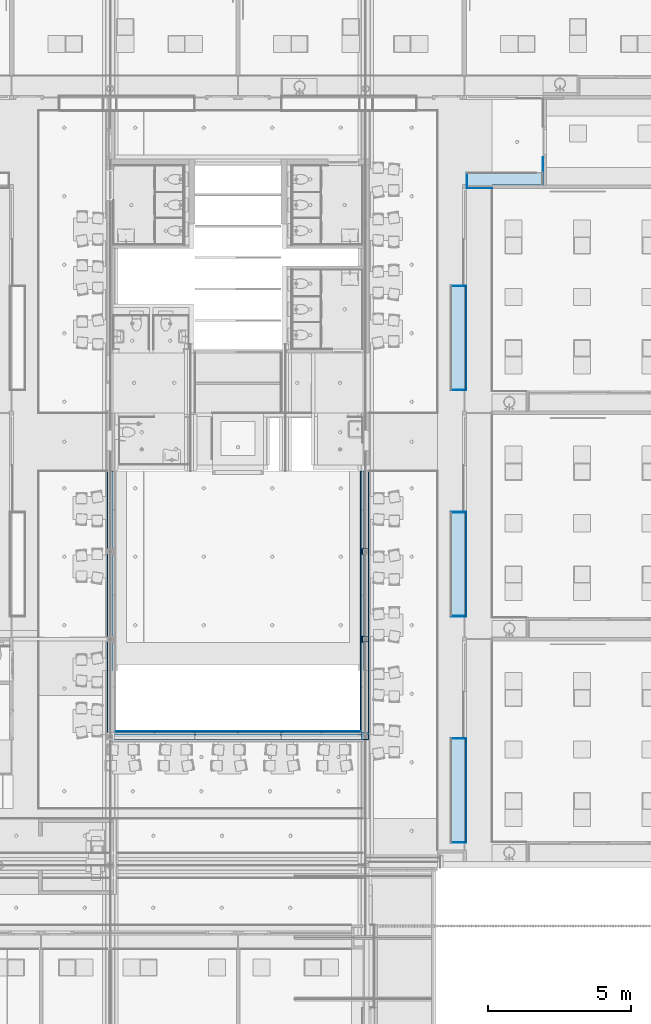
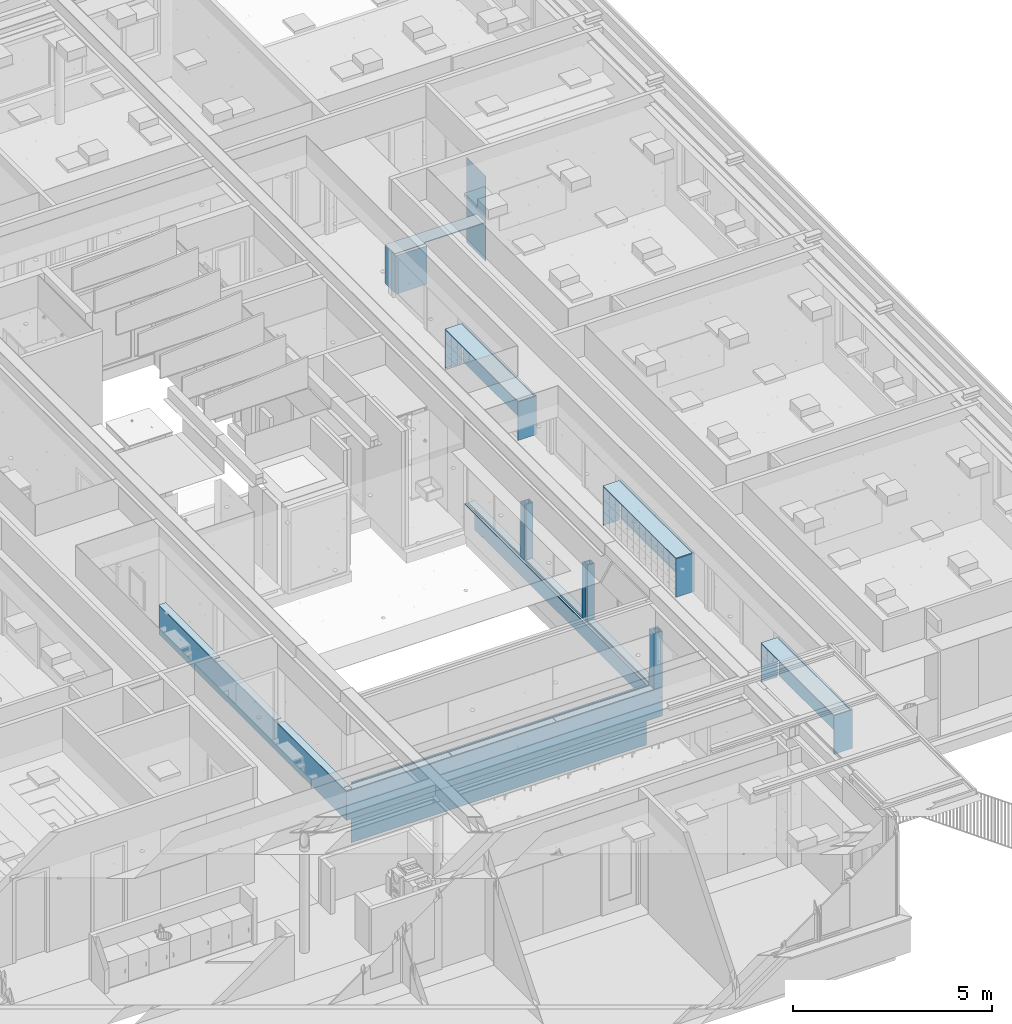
# One storey, part 21 of 260: 29 plates.
"""IFC2X3 building model written with IfcOpenShell, lengths in millimetres."""

import ifcopenshell
import ifcopenshell.guid

model = None  # the IFC model being written
_history = None  # IfcOwnerHistory: only IFC2X3 demands one
_inside = {}  # id of a spatial element -> (the spatial element, [elements in it])
_under = {}  # id of a project, library or spatial element -> (it, [spatial elements below it])
_declared = {}  # id of a project -> (the project, [libraries it declares])
_typed = {}  # id of a type object -> (the type object, [elements of that type])
_made_of = {}  # id of a material, layer set ... -> (it, [elements and type objects made of it])


def new_model(schema):
    """Start an empty IFC model of exactly this schema.

    Asked for "IFC4X3", IfcOpenShell would pick the latest addendum, in which some entities
    have other attributes; the version numbers below select the first issue.
    IFC2X3 requires an IfcOwnerHistory on every rooted entity: one is made here for all.
    """
    global model, _history
    if schema == "IFC4X3":
        model = ifcopenshell.file(schema_version=(4, 3, 0, 0))
    else:
        model = ifcopenshell.file(schema=schema)
    _inside.clear()
    _under.clear()
    _declared.clear()
    _typed.clear()
    _made_of.clear()
    _history = None
    if model.schema == "IFC2X3":
        org = make("IfcOrganization", Name="unknown")
        user = make(
            "IfcPersonAndOrganization",
            ThePerson=make("IfcPerson", FamilyName="unknown"),
            TheOrganization=org,
        )
        app = make(
            "IfcApplication",
            ApplicationDeveloper=org,
            Version="unknown",
            ApplicationFullName="unknown",
            ApplicationIdentifier="unknown",
        )
        _history = make(
            "IfcOwnerHistory",
            OwningUser=user,
            OwningApplication=app,
            ChangeAction="ADDED",
            CreationDate=0,
        )
    return model


def make(cls, **values):
    """One entity of the class cls with the attributes given. An attribute that is None is left unset."""
    return model.create_entity(
        cls, **{name: value for name, value in values.items() if value is not None}
    )


def entity(cls, *values):
    """Any entity or typed value of the class cls, its attributes in the order of the schema. None: left unset."""
    e = model.create_entity(cls)
    for i, value in enumerate(values):
        if value is not None:
            e[i] = value
    return e


def rooted(cls, **values):
    """An entity with a GlobalId (a new one), such as an element, a storey or a relation."""
    return make(cls, GlobalId=ifcopenshell.guid.new(), OwnerHistory=_history, **values)


def si_unit(unit_type, name, prefix=None):
    """IfcSIUnit, for example si_unit("LENGTHUNIT", "METRE", prefix="MILLI")."""
    return make("IfcSIUnit", UnitType=unit_type, Prefix=prefix, Name=name)


def converted_unit(unit_type, name, factor, base, dimensions=None, offset=None):
    """IfcConversionBasedUnit, such as the inch: factor (a typed value) times the base unit."""
    return make(
        "IfcConversionBasedUnit"
        if offset is None
        else "IfcConversionBasedUnitWithOffset",
        ConversionOffset=offset,
        Dimensions=None
        if dimensions is None
        else entity("IfcDimensionalExponents", *dimensions),
        UnitType=unit_type,
        Name=name,
        ConversionFactor=make(
            "IfcMeasureWithUnit", ValueComponent=factor, UnitComponent=base
        ),
    )


def derived_unit(unit_type, elements):
    """IfcDerivedUnit: a product of units, each with its exponent."""
    return make(
        "IfcDerivedUnit",
        Elements=[
            make("IfcDerivedUnitElement", Unit=unit, Exponent=power)
            for unit, power in elements
        ],
        UnitType=unit_type,
    )


def money_unit(currency):
    """IfcMonetaryUnit."""
    return make("IfcMonetaryUnit", Currency=currency)


def assignment(units):
    """IfcUnitAssignment: the units of a project."""
    return None if units is None else make("IfcUnitAssignment", Units=units)


def point(xyz):
    """IfcCartesianPoint."""
    return None if xyz is None else make("IfcCartesianPoint", Coordinates=xyz)


def direction(xyz):
    """IfcDirection."""
    return None if xyz is None else make("IfcDirection", DirectionRatios=xyz)


def frame(location, z_axis=None, x_axis=None):
    """IfcAxis2Placement3D, a coordinate frame: its origin and axes. An axis left out is left unset."""
    return make(
        "IfcAxis2Placement3D",
        Location=point(location),
        Axis=direction(z_axis),
        RefDirection=direction(x_axis),
    )


def origin_with_axes():
    """The frame at (0, 0, 0) with the z axis (0, 0, 1) and the x axis (1, 0, 0) written out."""
    return frame((0.0, 0.0, 0.0), z_axis=(0.0, 0.0, 1.0), x_axis=(1.0, 0.0, 0.0))


def place(relative_to, where):
    """IfcLocalPlacement: puts the frame where relative to a parent placement (None: the world)."""
    return make(
        "IfcLocalPlacement", PlacementRelTo=relative_to, RelativePlacement=where
    )


def context(
    kind, dimensions, precision=None, world=None, true_north=None, identifier=None
):
    """IfcGeometricRepresentationContext, for example the 3D "Model" context."""
    return make(
        "IfcGeometricRepresentationContext",
        ContextIdentifier=identifier,
        ContextType=kind,
        CoordinateSpaceDimension=dimensions,
        Precision=precision,
        WorldCoordinateSystem=world,
        TrueNorth=true_north,
    )


def subcontext(parent, identifier, kind, view, scale=None):
    """IfcGeometricRepresentationSubContext, for example "Body" below "Model"."""
    return make(
        "IfcGeometricRepresentationSubContext",
        ContextIdentifier=identifier,
        ContextType=kind,
        ParentContext=parent,
        TargetScale=scale,
        TargetView=view,
    )


def project(units=None, contexts=None):
    """IfcProject with its units and contexts."""
    return rooted(
        "IfcProject",
        Name="project",
        RepresentationContexts=contexts,
        UnitsInContext=assignment(units),
    )


def spatial(cls, under=None, at=None, **own):
    """A site, building, storey or space (cls), placed at a placement, below another one or the project."""
    s = rooted(cls, ObjectPlacement=at, **own)
    if under is not None:
        _under.setdefault(under.id(), (under, []))[1].append(s)
    return s


def faces_of(points, faces, orient=None, outer=None):
    """IfcFace entities. A face is a list of loops; a loop is a list of indices into points, from 0.

    orient and outer hold one flag for each loop. By default every Orientation is true, the
    first loop of a face is its IfcFaceOuterBound and the others are IfcFaceBound.
    """
    made = []
    for i, loops in enumerate(faces):
        bounds = []
        for j, loop in enumerate(loops):
            is_outer = j == 0 if outer is None else outer[i][j]
            bounds.append(
                make(
                    "IfcFaceOuterBound" if is_outer else "IfcFaceBound",
                    Bound=make("IfcPolyLoop", Polygon=[points[k] for k in loop]),
                    Orientation=True if orient is None else orient[i][j],
                )
            )
        made.append(make("IfcFace", Bounds=bounds))
    return made


def faceted_brep(points, faces, orient=None, outer=None, voids=None):
    """IfcFacetedBrep: a solid bounded by flat faces; with voids (closed shells), ...WithVoids."""
    shared = [point(p) for p in points]
    hull = make("IfcClosedShell", CfsFaces=faces_of(shared, faces, orient, outer))
    if voids is None:
        return make("IfcFacetedBrep", Outer=hull)
    return make(
        "IfcFacetedBrepWithVoids",
        Outer=hull,
        Voids=[
            make(cls, CfsFaces=faces_of(shared, fs, o, b)) for cls, fs, o, b in voids
        ],
    )


def shape(context_of_items, identifier, shape_type, items):
    """IfcShapeRepresentation: the items that make up one representation, for example the "Body"."""
    return make(
        "IfcShapeRepresentation",
        ContextOfItems=context_of_items,
        RepresentationIdentifier=identifier,
        RepresentationType=shape_type,
        Items=items,
    )


def material(Name=None, Category=None):
    """IfcMaterial."""
    return make("IfcMaterial", Name=Name, Category=Category)


def made_of(thing, what):
    """Note that an element or type object is made of a material, layer set ...; save() writes the relation."""
    if what is not None:
        _made_of.setdefault(what.id(), (what, []))[1].append(thing)
    return thing


def type_object(cls, material=None, **own):
    """A type object (cls), such as IfcWallType, which elements share."""
    return made_of(rooted(cls, **own), material)


def element(
    cls,
    number,
    at=None,
    inside=None,
    cuts=None,
    type_object=None,
    material=None,
    context=None,
    identifier="Body",
    shape_type=None,
    held_by="IfcProductDefinitionShape",
    body=None,
    shapes=None,
    **own,
):
    """One element of the class cls, such as IfcWall. Its Tag is "e" and its number.

    at: its placement. inside: the storey or other place that contains it. cuts: it is an
    opening in that element (IfcRelVoidsElement). A single representation is given by context,
    identifier, shape_type and body (its items); several are given by shapes. held_by: the class
    of the entity that holds the representations. save() writes the other relations.
    """
    e = rooted(cls, Tag="e%d" % number, ObjectPlacement=at, **own)
    if body is not None:
        shapes = [shape(context, identifier, shape_type, body)]
    if shapes is not None:
        e.Representation = make(held_by, Representations=shapes)
    if inside is not None:
        _inside.setdefault(inside.id(), (inside, []))[1].append(e)
    if cuts is not None:
        rooted(
            "IfcRelVoidsElement", RelatingBuildingElement=cuts, RelatedOpeningElement=e
        )
    if type_object is not None:
        _typed.setdefault(type_object.id(), (type_object, []))[1].append(e)
    return made_of(e, material)


def aggregate(whole, parts):
    """IfcRelAggregates: a whole, such as a stair, and the parts it consists of."""
    return rooted("IfcRelAggregates", RelatingObject=whole, RelatedObjects=parts)


def save(model, path):
    """Write the relations noted so far, then the file.

    IfcRelAggregates (storeys below a building ...), IfcRelContainedInSpatialStructure (elements
    in a storey), IfcRelDefinesByType, IfcRelAssociatesMaterial and IfcRelDeclares: one each for
    every whole, place, type object, material and project.
    """
    for whole, parts in _under.values():
        aggregate(whole, parts)
    for where, things in _inside.values():
        rooted(
            "IfcRelContainedInSpatialStructure",
            RelatedElements=things,
            RelatingStructure=where,
        )
    for kind, things in _typed.values():
        rooted("IfcRelDefinesByType", RelatedObjects=things, RelatingType=kind)
    for what, things in _made_of.values():
        rooted("IfcRelAssociatesMaterial", RelatedObjects=things, RelatingMaterial=what)
    for by, libraries in _declared.values():
        rooted("IfcRelDeclares", RelatingContext=by, RelatedDefinitions=libraries)
    model.write(path)


model = new_model("IFC2X3")

# Units and contexts
model_context = context("Model", 3, precision=0.01, world=origin_with_axes(), true_north=direction((0.0, 1.0)))
plan_context = context("Plan", 3, precision=0.01, world=origin_with_axes(), true_north=direction((0.0, 1.0)))
body_context = subcontext(model_context, "Body", "Model", "MODEL_VIEW")
ifc_project = project(units=[si_unit("LENGTHUNIT", "METRE", prefix="MILLI"), si_unit("AREAUNIT", "SQUARE_METRE"), si_unit("VOLUMEUNIT", "CUBIC_METRE"), converted_unit("PLANEANGLEUNIT", "DEGREE", entity("IfcPlaneAngleMeasure", 0.0174532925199), si_unit("PLANEANGLEUNIT", "RADIAN"), dimensions=[0, 0, 0, 0, 0, 0, 0]), money_unit("EUR"), converted_unit("TIMEUNIT", "Year", entity("IfcTimeMeasure", 31556926.0), si_unit("TIMEUNIT", "SECOND"), dimensions=[0, 0, 1, 0, 0, 0, 0]), si_unit("MASSUNIT", "GRAM", prefix="KILO"), si_unit("THERMODYNAMICTEMPERATUREUNIT", "DEGREE_CELSIUS"), si_unit("LUMINOUSINTENSITYUNIT", "LUMEN"), si_unit("ENERGYUNIT", "JOULE", prefix="MEGA"), derived_unit("THERMALCONDUCTANCEUNIT", [(si_unit("POWERUNIT", "WATT"), 1), (si_unit("LENGTHUNIT", "METRE"), -1), (si_unit("THERMODYNAMICTEMPERATUREUNIT", "KELVIN"), -1)]), derived_unit("SPECIFICHEATCAPACITYUNIT", [(si_unit("ENERGYUNIT", "JOULE"), 1), (si_unit("MASSUNIT", "GRAM", prefix="KILO"), -1), (si_unit("THERMODYNAMICTEMPERATUREUNIT", "KELVIN"), -1)]), derived_unit("MASSDENSITYUNIT", [(si_unit("MASSUNIT", "GRAM", prefix="KILO"), 1), (si_unit("VOLUMEUNIT", "CUBIC_METRE"), -1)])], contexts=[model_context, plan_context])

# Site, building, storey
site_placement = place(None, origin_with_axes())
site = spatial("IfcSite", under=ifc_project, at=site_placement, Name="Site", CompositionType="ELEMENT")
building_placement = place(site_placement, origin_with_axes())
building = spatial("IfcBuilding", under=site, at=building_placement, Name="Naam gebouw", CompositionType="ELEMENT")
storey_placement = place(building_placement, frame((0.0, 0.0, 3960.0), z_axis=(0.0, 0.0, 1.0), x_axis=(1.0, 0.0, 0.0)))
storey = spatial("IfcBuildingStorey", under=building, at=storey_placement, Name="verdieping", CompositionType="ELEMENT", Elevation=3960.0)

# Plates
ifc_material_1 = material(Name="Hout - Lockers")
plate_type_1 = type_object("IfcPlateType", Name="Hout - Lockers 1175", PredefinedType="SHEET")
plate_1_placement = place(storey_placement, frame((48063.0, 32430.5, 0.0), z_axis=(0.0, 0.0, 1.0), x_axis=(1.0, 0.0, 0.0)))
element("IfcPlate", 1, at=plate_1_placement, inside=storey, type_object=plate_type_1, material=ifc_material_1, Name="72_72 vaste inrichting", ObjectType="SHEET", context=body_context, shape_type="Brep", body=[
    faceted_brep([(0.0, 0.0, 1175.0), (0.0, 0.0, 0.0), (0.0, -3649.99859918, 0.0), (0.0, -3649.99859918, 1175.0), (12.0, 0.0, 1175.0), (12.0, 0.0, 0.0), (12.0, -3662.0, 0.0), (12.0, -3662.0, 1175.0)], [[[0, 1, 2, 3]], [[4, 5, 1, 0]], [[2, 1, 5, 6]], [[3, 2, 6, 7]], [[4, 0, 3, 7]], [[7, 6, 5, 4]]]),
])
plate_2_placement = place(storey_placement, frame((48063.0, 24505.5, 0.0), z_axis=(0.0, 0.0, 1.0), x_axis=(1.0, 0.0, 0.0)))
element("IfcPlate", 2, at=plate_2_placement, inside=storey, type_object=plate_type_1, material=ifc_material_1, Name="72_72 vaste inrichting", ObjectType="SHEET", context=body_context, shape_type="Brep", body=[
    faceted_brep([(0.0, 0.0, 1175.0), (0.0, 0.0, 0.0), (0.0, -3650.10545346, 0.0), (0.0, -3650.10545346, 1175.0), (12.0, 0.0, 1175.0), (12.0, 0.0, 0.0), (12.0, -3662.0, 0.0), (12.0, -3662.0, 1175.0)], [[[0, 1, 2, 3]], [[4, 5, 1, 0]], [[2, 1, 5, 6]], [[3, 2, 6, 7]], [[4, 0, 3, 7]], [[7, 6, 5, 4]]]),
])
plate_3_placement = place(storey_placement, frame((48063.0, 16580.5, 0.0), z_axis=(0.0, 0.0, 1.0), x_axis=(1.0, 0.0, 0.0)))
element("IfcPlate", 3, at=plate_3_placement, inside=storey, type_object=plate_type_1, material=ifc_material_1, Name="72_72 vaste inrichting", ObjectType="SHEET", context=body_context, shape_type="Brep", body=[
    faceted_brep([(0.0, 0.0, 1175.0), (0.0, 0.0, 0.0), (0.0, -3650.15627813, 0.0), (0.0, -3650.15627813, 1175.0), (12.0, 0.0, 1175.0), (12.0, 0.0, 0.0), (12.0, -3662.0, 0.0), (12.0, -3662.0, 1175.0)], [[[0, 1, 2, 3]], [[4, 5, 1, 0]], [[2, 1, 5, 6]], [[3, 2, 6, 7]], [[4, 0, 3, 7]], [[7, 6, 5, 4]]]),
])
plate_4_placement = place(storey_placement, frame((48082.0, 35849.5, 0.0), z_axis=(0.0, 0.0, 1.0), x_axis=(1.0, 0.0, 0.0)))
element("IfcPlate", 4, at=plate_4_placement, inside=storey, type_object=plate_type_1, material=ifc_material_1, Name="72_72 vaste inrichting", ObjectType="SHEET", context=body_context, shape_type="Brep", body=[
    faceted_brep([(0.0, 0.0, 1175.0), (0.0, 0.0, 0.0), (0.0, -12.0, 0.0), (0.0, -12.0, 1175.0), (893.0, 0.0, 1175.0), (893.0, 0.0, 0.0), (893.0, -12.0, 0.0), (893.0, -12.0, 1175.0)], [[[0, 1, 2, 3]], [[4, 5, 1, 0]], [[2, 1, 5, 6]], [[3, 2, 6, 7]], [[4, 0, 3, 7]], [[7, 6, 5, 4]]]),
])
plate_type_2 = type_object("IfcPlateType", Name="Hout - Lockers 25", PredefinedType="SHEET")
for number, where, z_axis, x_axis, name in (
    (5, (48075.0, 12918.5, 1200.0), (0.0, 0.0, 1.0), (1.0, 0.0, 0.0), "72_72 vaste inrichting"),
    (6, (48075.0, 20843.5, 1200.0), (0.0, 0.0, 1.0), (1.0, 0.0, 0.0), "72_72 vaste inrichting"),
    (7, (48075.0, 28768.5, 1200.0), (0.0, 0.0, 1.0), (1.0, 0.0, 0.0), "72_72 vaste inrichting"),
):
    element("IfcPlate", number, at=place(storey_placement, frame(where, z_axis=z_axis, x_axis=x_axis)), inside=storey, type_object=plate_type_2, material=ifc_material_1, Name=name, ObjectType="SHEET", context=body_context, shape_type="Brep", body=[
        faceted_brep([(0.0, 0.0, 0.0), (0.0, 0.0, -25.0), (0.0, 3662.0, -25.0), (0.0, 3662.0, 0.0), (-52.5, 0.0, 0.0), (-52.5, 0.0, -25.0), (-52.5, 3662.0, -25.0), (-52.5, 3662.0, 0.0)], [[[0, 1, 2, 3]], [[4, 5, 1, 0]], [[2, 1, 5, 6]], [[3, 2, 6, 7]], [[4, 0, 3, 7]], [[7, 6, 5, 4]]]),
    ])
ifc_material_2 = material(Name="ALG - LICHTE SCHEIDINGSWAND - master")
plate_type_3 = type_object("IfcPlateType", Name="ALG - LICHTE SCHEIDINGSWAND - master 2600", PredefinedType="SHEET")
plate_5_placement = place(storey_placement, frame((50762.5, 35962.5, 0.0), z_axis=(0.0, 0.0, 1.0), x_axis=(1.0, 0.0, 0.0)))
element("IfcPlate", 8, at=plate_5_placement, inside=storey, type_object=plate_type_3, material=ifc_material_2, Name="72_72 vaste inrichting", ObjectType="SHEET", context=body_context, shape_type="Brep", body=[
    faceted_brep([(0.0, 0.0, 2600.0), (0.0, 0.0, 0.0), (0.0, 968.000017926, 0.0), (0.0, 968.000017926, 2600.0), (-12.5, 0.0, 2600.0), (-12.5, 0.0, 0.0), (-12.5, 968.000017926, 0.0), (-12.5, 968.000017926, 2600.0)], [[[0, 1, 2, 3]], [[4, 5, 1, 0]], [[2, 1, 5, 6]], [[3, 2, 6, 7]], [[4, 0, 3, 7]], [[7, 6, 5, 4]]]),
])
plate_type_4 = type_object("IfcPlateType", Name="ALG - LICHTE SCHEIDINGSWAND - master 25", PredefinedType="SHEET")
plate_6_placement = place(storey_placement, frame((35695.0000242, 25940.0, 900.0), z_axis=(0.0, 0.0, 1.0), x_axis=(1.0, 0.0, 0.0)))
element("IfcPlate", 9, at=plate_6_placement, inside=storey, type_object=plate_type_4, material=ifc_material_2, Name="72_72 vaste inrichting", ObjectType="SHEET", context=body_context, shape_type="Brep", body=[
    faceted_brep([(0.0, 0.0, 0.0), (0.0, 0.0, -25.0), (-200.000024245, 0.0, -25.0), (-200.000024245, 0.0, 0.0), (0.0, -2739.99999544, 0.0), (0.0, -2739.99999544, -25.0), (-165.000034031, -2739.99999544, -25.0), (-165.000034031, -2890.00001363, -25.0), (0.0, -2890.00001363, -25.0), (0.0, -5815.00001747, -25.0), (-165.000034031, -5815.00001747, -25.0), (-165.000034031, -5965.00003565, -25.0), (0.0, -5965.00003565, -25.0), (0.0, -9214.99902668, -25.0), (2859.99998193, -9214.99902668, -25.0), (2859.99998193, -9390.0001001, -25.0), (2879.9999563, -9390.0001001, -25.0), (2879.9999563, -9214.99902668, -25.0), (5880.00003938, -9214.99930727, -25.0), (5880.00003938, -9390.00038069, -25.0), (5900.00001374, -9390.00038069, -25.0), (5900.00001374, -9214.99930727, -25.0), (8759.9994345, -9214.99986845, -25.0), (8760.00013597, -5965.00087742, -25.0), (8925.00073118, -5965.00087742, -25.0), (8925.00073118, -5815.00085924, -25.0), (8759.9994412, -5815.00085924, -25.0), (8760.00000238, -2890.00085539, -25.0), (8925.00129236, -2890.00085539, -25.0), (8925.00129236, -2740.00083721, -25.0), (8760.0000331, -2740.00083721, -25.0), (8760.00059428, -0.000841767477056, -25.0), (8960.00184375, -0.000841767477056, -25.0), (8960.00001992, -9415.00087475, -25.0), (-200.000024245, -9415.00003299, -25.0), (-165.000034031, -9380.00004277, -25.0), (-15.0000158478, -9380.00004277, -25.0), (-15.0000158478, -9230.00002459, -25.0), (-165.000034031, -9230.00002459, -25.0), (8925.0000297, -9230.00086636, -25.0), (8775.00001152, -9230.00086636, -25.0), (8775.00001152, -9380.00088454, -25.0), (8925.0000297, -9380.00088454, -25.0), (-200.000024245, -9415.00003299, 0.0), (8960.00001992, -9415.00087475, 0.0), (8960.00184375, -0.000841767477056, 0.0), (8760.00059428, -0.000841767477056, 0.0), (8760.0000331, -2740.00083721, 0.0), (8925.00129236, -2740.00083721, 0.0), (8925.00129236, -2890.00085539, 0.0), (8760.00000238, -2890.00085539, 0.0), (8759.9994412, -5815.00085924, 0.0), (8925.00073118, -5815.00085924, 0.0), (8925.00073118, -5965.00087742, 0.0), (8760.00013597, -5965.00087742, 0.0), (8759.9994345, -9214.99986845, 0.0), (5900.00001374, -9214.99930727, 0.0), (5900.00001374, -9390.00038069, 0.0), (5880.00003938, -9390.00038069, 0.0), (5880.00003938, -9214.99930727, 0.0), (2879.9999563, -9214.99902668, 0.0), (2879.9999563, -9390.0001001, 0.0), (2859.99998193, -9390.0001001, 0.0), (2859.99998193, -9214.99902668, 0.0), (0.0, -9214.99902668, 0.0), (0.0, -5965.00003565, 0.0), (-165.000034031, -5965.00003565, 0.0), (-165.000034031, -5815.00001747, 0.0), (0.0, -5815.00001747, 0.0), (0.0, -2890.00001363, 0.0), (-165.000034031, -2890.00001363, 0.0), (-165.000034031, -2739.99999544, 0.0), (-15.0000158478, -9230.00002459, 0.0), (-15.0000158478, -9380.00004277, 0.0), (-165.000034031, -9380.00004277, 0.0), (-165.000034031, -9230.00002459, 0.0), (8775.00001152, -9380.00088454, 0.0), (8775.00001152, -9230.00086636, 0.0), (8925.0000297, -9230.00086636, 0.0), (8925.0000297, -9380.00088454, 0.0)], [[[0, 1, 2, 3]], [[4, 5, 1, 0]], [[2, 1, 5, 6, 7, 8, 9, 10, 11, 12, 13, 14, 15, 16, 17, 18, 19, 20, 21, 22, 23, 24, 25, 26, 27, 28, 29, 30, 31, 32, 33, 34], [35, 36, 37, 38], [39, 40, 41, 42]], [[3, 2, 34, 43]], [[4, 0, 3, 43, 44, 45, 46, 47, 48, 49, 50, 51, 52, 53, 54, 55, 56, 57, 58, 59, 60, 61, 62, 63, 64, 65, 66, 67, 68, 69, 70, 71], [72, 73, 74, 75], [76, 77, 78, 79]], [[71, 6, 5, 4]], [[70, 7, 6, 71]], [[69, 8, 7, 70]], [[68, 9, 8, 69]], [[67, 10, 9, 68]], [[66, 11, 10, 67]], [[65, 12, 11, 66]], [[64, 13, 12, 65]], [[63, 14, 13, 64]], [[62, 15, 14, 63]], [[61, 16, 15, 62]], [[60, 17, 16, 61]], [[59, 18, 17, 60]], [[58, 19, 18, 59]], [[57, 20, 19, 58]], [[56, 21, 20, 57]], [[55, 22, 21, 56]], [[54, 23, 22, 55]], [[53, 24, 23, 54]], [[52, 25, 24, 53]], [[51, 26, 25, 52]], [[50, 27, 26, 51]], [[49, 28, 27, 50]], [[48, 29, 28, 49]], [[47, 30, 29, 48]], [[46, 31, 30, 47]], [[45, 32, 31, 46]], [[44, 33, 32, 45]], [[43, 34, 33, 44]], [[73, 36, 35, 74]], [[72, 37, 36, 73]], [[75, 38, 37, 72]], [[74, 35, 38, 75]], [[77, 40, 39, 78]], [[76, 41, 40, 77]], [[79, 42, 41, 76]], [[78, 39, 42, 79]]]),
])
plate_7_placement = place(storey_placement, frame((44354.9971429, 25940.0013723, 900.0), z_axis=(0.0, 0.0, 1.0), x_axis=(1.0, 0.0, 0.0)))
element("IfcPlate", 10, at=plate_7_placement, inside=storey, type_object=plate_type_4, material=ifc_material_2, Name="72_72 vaste inrichting", ObjectType="SHEET", context=body_context, shape_type="Brep", body=[
    faceted_brep([(0.00300452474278, -9164.99954544, 0.0), (0.0, 0.0, 0.0), (0.0, 0.0, -25.0), (0.00300452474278, -9164.99954544, -25.0), (50.0028030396, -9164.99954544, 0.0), (49.9999350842, 0.0, 0.0), (49.9999350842, 0.0, -25.0), (50.0028030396, -9164.99954544, -25.0)], [[[0, 1, 2, 3]], [[4, 5, 1, 0]], [[1, 5, 6, 2]], [[7, 3, 2, 6]], [[4, 0, 3, 7]], [[5, 4, 7, 6]]]),
])
plate_8_placement = place(storey_placement, frame((35795.0001448, 16774.9999672, 900.0), z_axis=(0.0, 0.0, 1.0), x_axis=(1.0, 0.0, 0.0)))
element("IfcPlate", 11, at=plate_8_placement, inside=storey, type_object=plate_type_4, material=ifc_material_2, Name="72_72 vaste inrichting", ObjectType="SHEET", context=body_context, shape_type="Brep", body=[
    faceted_brep([(0.0, 0.0, 0.0), (0.0, 0.0, -25.0), (8559.99985521, 0.0, -25.0), (8559.99985521, 0.0, 0.0), (0.0, 50.0009681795, 0.0), (0.0, 50.0009681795, -25.0), (8559.99985521, 50.0009681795, -25.0), (8559.99985521, 50.0009681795, 0.0)], [[[0, 1, 2, 3]], [[4, 5, 1, 0]], [[2, 1, 5, 6]], [[3, 2, 6, 7]], [[4, 0, 3, 7]], [[7, 6, 5, 4]]]),
])
plate_type_5 = type_object("IfcPlateType", Name="Hout - Lockers 1178", PredefinedType="SHEET")
plate_9_placement = place(storey_placement, frame((48075.0014008, 28768.5, 0.0), z_axis=(0.0, 0.0, 1.0), x_axis=(1.0, 0.0, 0.0)))
element("IfcPlate", 12, at=plate_9_placement, inside=storey, type_object=plate_type_5, material=ifc_material_1, Name="72_72 vaste inrichting", ObjectType="SHEET", context=body_context, shape_type="Brep", body=[
    faceted_brep([(0.0, 0.0, 1178.0), (0.0, 0.0, 0.0), (-22.0, 22.0, 0.0), (-22.0, 22.0, 1178.0), (-543.0, 0.0, 1178.0), (-543.0, 0.0, 0.0), (-543.0, 22.0, 0.0), (-543.0, 22.0, 1178.0)], [[[0, 1, 2, 3]], [[4, 5, 1, 0]], [[2, 1, 5, 6]], [[3, 2, 6, 7]], [[4, 0, 3, 7]], [[7, 6, 5, 4]]]),
])
plate_10_placement = place(storey_placement, frame((48006.0014008, 32408.5, 0.0), z_axis=(0.0, 0.0, 1.0), x_axis=(1.0, 0.0, 0.0)))
element("IfcPlate", 13, at=plate_10_placement, inside=storey, type_object=plate_type_5, material=ifc_material_1, Name="72_72 vaste inrichting", ObjectType="SHEET", context=body_context, shape_type="Brep", body=[
    faceted_brep([(0.0, 0.0, 1178.0), (0.0, 0.0, 0.0), (0.0, 22.0, 0.0), (0.0, 22.0, 1178.0), (-474.0, 0.0, 1178.0), (-474.0, 0.0, 0.0), (-474.0, 22.0, 0.0), (-474.0, 22.0, 1178.0)], [[[0, 1, 2, 3]], [[4, 5, 1, 0]], [[2, 1, 5, 6]], [[3, 2, 6, 7]], [[4, 0, 3, 7]], [[7, 6, 5, 4]]]),
])
plate_11_placement = place(storey_placement, frame((48075.0014008, 20843.5, 0.0), z_axis=(0.0, 0.0, 1.0), x_axis=(1.0, 0.0, 0.0)))
element("IfcPlate", 14, at=plate_11_placement, inside=storey, type_object=plate_type_5, material=ifc_material_1, Name="72_72 vaste inrichting", ObjectType="SHEET", context=body_context, shape_type="Brep", body=[
    faceted_brep([(0.0, 0.0, 1178.0), (0.0, 0.0, 0.0), (-22.0, 22.0, 0.0), (-22.0, 22.0, 1178.0), (-543.0, 0.0, 1178.0), (-543.0, 0.0, 0.0), (-543.0, 22.0, 0.0), (-543.0, 22.0, 1178.0)], [[[0, 1, 2, 3]], [[4, 5, 1, 0]], [[2, 1, 5, 6]], [[3, 2, 6, 7]], [[4, 0, 3, 7]], [[7, 6, 5, 4]]]),
])
plate_12_placement = place(storey_placement, frame((48006.0014008, 24483.3931457, 0.0), z_axis=(0.0, 0.0, 1.0), x_axis=(1.0, 0.0, 0.0)))
element("IfcPlate", 15, at=plate_12_placement, inside=storey, type_object=plate_type_5, material=ifc_material_1, Name="72_72 vaste inrichting", ObjectType="SHEET", context=body_context, shape_type="Brep", body=[
    faceted_brep([(0.0, 0.0, 1178.0), (0.0, 0.0, 0.0), (0.0, 22.0, 0.0), (0.0, 22.0, 1178.0), (-474.0, 0.0, 1178.0), (-474.0, 0.0, 0.0), (-474.0, 22.0, 0.0), (-474.0, 22.0, 1178.0)], [[[0, 1, 2, 3]], [[4, 5, 1, 0]], [[2, 1, 5, 6]], [[3, 2, 6, 7]], [[4, 0, 3, 7]], [[7, 6, 5, 4]]]),
])
plate_13_placement = place(storey_placement, frame((48074.8437219, 12918.5, 0.0), z_axis=(0.0, 0.0, 1.0), x_axis=(1.0, 0.0, 0.0)))
element("IfcPlate", 16, at=plate_13_placement, inside=storey, type_object=plate_type_5, material=ifc_material_1, Name="72_72 vaste inrichting", ObjectType="SHEET", context=body_context, shape_type="Brep", body=[
    faceted_brep([(0.0, 0.0, 1178.0), (0.0, 0.0, 0.0), (-21.8423210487, 21.8423210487, 0.0), (-21.8423210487, 21.8423210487, 1178.0), (-542.842321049, 0.0, 1178.0), (-542.842321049, 0.0, 0.0), (-542.842321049, 21.8423210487, 0.0), (-542.842321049, 21.8423210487, 1178.0)], [[[0, 1, 2, 3]], [[4, 5, 1, 0]], [[2, 1, 5, 6]], [[3, 2, 6, 7]], [[4, 0, 3, 7]], [[7, 6, 5, 4]]]),
])
plate_14_placement = place(storey_placement, frame((48006.0014008, 16558.342321, 0.0), z_axis=(0.0, 0.0, 1.0), x_axis=(1.0, 0.0, 0.0)))
element("IfcPlate", 17, at=plate_14_placement, inside=storey, type_object=plate_type_5, material=ifc_material_1, Name="72_72 vaste inrichting", ObjectType="SHEET", context=body_context, shape_type="Brep", body=[
    faceted_brep([(0.0, 0.0, 1178.0), (0.0, 0.0, 0.0), (0.0, 22.0, 0.0), (0.0, 22.0, 1178.0), (-474.0, 0.0, 1178.0), (-474.0, 0.0, 0.0), (-474.0, 22.0, 0.0), (-474.0, 22.0, 1178.0)], [[[0, 1, 2, 3]], [[4, 5, 1, 0]], [[2, 1, 5, 6]], [[3, 2, 6, 7]], [[4, 0, 3, 7]], [[7, 6, 5, 4]]]),
])
plate_15_placement = place(storey_placement, frame((48082.0, 35906.5000142, 0.0), z_axis=(0.0, 0.0, 1.0), x_axis=(1.0, 0.0, 0.0)))
element("IfcPlate", 18, at=plate_15_placement, inside=storey, type_object=plate_type_5, material=ifc_material_1, Name="72_72 vaste inrichting", ObjectType="SHEET", context=body_context, shape_type="Brep", body=[
    faceted_brep([(0.0, 0.0, 1178.0), (0.0, 0.0, 0.0), (22.0, 0.0, 0.0), (22.0, 0.0, 1178.0), (0.0, 473.99999915, 1178.0), (0.0, 473.99999915, 0.0), (22.0, 473.99999915, 0.0), (22.0, 473.99999915, 1178.0)], [[[0, 1, 2, 3]], [[4, 5, 1, 0]], [[2, 1, 5, 6]], [[3, 2, 6, 7]], [[4, 0, 3, 7]], [[7, 6, 5, 4]]]),
])
plate_type_6 = type_object("IfcPlateType", Name="Hout - Lockers 22", PredefinedType="SHEET")
plate_16_placement = place(storey_placement, frame((48002.5, 28768.5, 1200.0), z_axis=(0.0, 0.0, 1.0), x_axis=(1.0, 0.0, 0.0)))
element("IfcPlate", 19, at=plate_16_placement, inside=storey, type_object=plate_type_6, material=ifc_material_1, Name="72_72 vaste inrichting", ObjectType="SHEET", context=body_context, shape_type="Brep", body=[
    faceted_brep([(0.0, 0.0, 0.0), (0.0, 0.0, -22.0), (0.0, 3662.0, -22.0), (0.0, 3662.0, 0.0), (-470.498599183, 0.0, 0.0), (-470.498599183, 0.0, -22.0), (-470.498599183, 3662.0, -22.0), (-470.498599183, 3662.0, 0.0)], [[[0, 1, 2, 3]], [[4, 5, 1, 0]], [[2, 1, 5, 6]], [[3, 2, 6, 7]], [[4, 0, 3, 7]], [[7, 6, 5, 4]]]),
])
plate_17_placement = place(storey_placement, frame((48002.5, 20843.5, 1200.0), z_axis=(0.0, 0.0, 1.0), x_axis=(1.0, 0.0, 0.0)))
element("IfcPlate", 20, at=plate_17_placement, inside=storey, type_object=plate_type_6, material=ifc_material_1, Name="72_72 vaste inrichting", ObjectType="SHEET", context=body_context, shape_type="Brep", body=[
    faceted_brep([(0.0, 0.0, 0.0), (0.0, 0.0, -22.0), (0.0, 3661.89314573, -22.0), (0.0, 3661.89314573, 0.0), (-470.498599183, 0.0, 0.0), (-470.498599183, 0.0, -22.0), (-470.498599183, 3661.89314573, -22.0), (-470.498599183, 3661.89314573, 0.0)], [[[0, 1, 2, 3]], [[4, 5, 1, 0]], [[2, 1, 5, 6]], [[3, 2, 6, 7]], [[4, 0, 3, 7]], [[7, 6, 5, 4]]]),
])
plate_18_placement = place(storey_placement, frame((48002.5, 12918.5, 1200.0), z_axis=(0.0, 0.0, 1.0), x_axis=(1.0, 0.0, 0.0)))
element("IfcPlate", 21, at=plate_18_placement, inside=storey, type_object=plate_type_6, material=ifc_material_1, Name="72_72 vaste inrichting", ObjectType="SHEET", context=body_context, shape_type="Brep", body=[
    faceted_brep([(0.0, 0.0, 0.0), (0.0, 0.0, -22.0), (0.0, 3662.0, -22.0), (0.0, 3662.0, 0.0), (-470.498599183, 0.0, 0.0), (-470.498599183, 0.0, -22.0), (-470.498599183, 3662.0, -22.0), (-470.498599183, 3662.0, 0.0)], [[[0, 1, 2, 3]], [[4, 5, 1, 0]], [[2, 1, 5, 6]], [[3, 2, 6, 7]], [[4, 0, 3, 7]], [[7, 6, 5, 4]]]),
])
plate_19_placement = place(storey_placement, frame((50749.9999977, 36380.5000133, 1200.0), z_axis=(0.0, 0.0, 1.0), x_axis=(1.0, 0.0, 0.0)))
element("IfcPlate", 22, at=plate_19_placement, inside=storey, type_object=plate_type_6, material=ifc_material_1, Name="72_72 vaste inrichting", ObjectType="SHEET", context=body_context, shape_type="Brep", body=[
    faceted_brep([(0.0, 0.0, 0.0), (0.0, 0.0, -22.0), (-2667.99999773, 0.0, -22.0), (-2667.99999773, 0.0, 0.0), (0.0, -418.000029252, 0.0), (0.0, -418.000029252, -22.0), (-1775.0000178, -417.999989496, -22.0), (-1775.0000178, -474.000008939, -22.0), (-2667.99999773, -474.000008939, -22.0), (-2667.99999773, -474.000008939, 0.0), (-1775.0000178, -474.000008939, 0.0), (-1775.0000178, -417.999989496, 0.0)], [[[0, 1, 2, 3]], [[4, 5, 1, 0]], [[2, 1, 5, 6, 7, 8]], [[3, 2, 8, 9]], [[4, 0, 3, 9, 10, 11]], [[11, 6, 5, 4]], [[10, 7, 6, 11]], [[9, 8, 7, 10]]]),
])
plate_type_7 = type_object("IfcPlateType", Name="ALG - LICHTE SCHEIDINGSWAND - master 1835", PredefinedType="SHEET")
plate_20_placement = place(storey_placement, frame((44355.0, 16825.0000022, -960.0), z_axis=(0.0, 0.0, 1.0), x_axis=(1.0, 0.0, 0.0)))
element("IfcPlate", 23, at=plate_20_placement, inside=storey, type_object=plate_type_7, material=ifc_material_2, Name="72_72 vaste inrichting", ObjectType="SHEET", context=body_context, shape_type="Brep", body=[
    faceted_brep([(0.0, 0.0, 1835.0), (0.0, 0.0, 0.0), (-8559.99989072, 0.0, 0.0), (-8559.99989072, 0.0, 1835.0), (0.0, -12.0, 1835.0), (0.0, -12.0, 0.0), (-8559.99989072, -12.0, 0.0), (-8559.99989072, -12.0, 1835.0)], [[[0, 1, 2, 3]], [[4, 5, 1, 0]], [[2, 1, 5, 6]], [[3, 2, 6, 7]], [[4, 0, 3, 7]], [[7, 6, 5, 4]]]),
])
plate_type_8 = type_object("IfcPlateType", Name="ALG - LICHTE SCHEIDINGSWAND - master 1700", PredefinedType="SHEET")
for number, where, z_axis, x_axis, name in (
    (24, (44405.0, 23025.0, 900.0), (0.0, 0.0, 1.0), (1.0, 0.0, 0.0), "72_73 vaste inrichting"),
    (25, (44405.0, 19950.0, 900.0), (0.0, 0.0, 1.0), (1.0, 0.0, 0.0), "72_74 vaste inrichting"),
):
    element("IfcPlate", number, at=place(storey_placement, frame(where, z_axis=z_axis, x_axis=x_axis)), inside=storey, type_object=plate_type_8, material=ifc_material_2, Name=name, ObjectType="SHEET", context=body_context, shape_type="Brep", body=[
        faceted_brep([(0.0, 0.0, 1700.0), (0.0, 0.0, 0.0), (50.0, 0.0, 0.0), (50.0, 0.0, 1700.0), (0.0, 200.0, 1700.0), (0.0, 200.0, 0.0), (50.0, 200.0, 0.0), (50.0, 200.0, 1700.0)], [[[0, 1, 2, 3]], [[4, 5, 1, 0]], [[2, 1, 5, 6]], [[3, 2, 6, 7]], [[4, 0, 3, 7]], [[7, 6, 5, 4]]]),
    ])
plate_21_placement = place(storey_placement, frame((44405.0, 16524.9999672, 900.0), z_axis=(0.0, 0.0, 1.0), x_axis=(1.0, 0.0, 0.0)))
element("IfcPlate", 26, at=plate_21_placement, inside=storey, type_object=plate_type_8, material=ifc_material_2, Name="72_72 vaste inrichting", ObjectType="SHEET", context=body_context, shape_type="Brep", body=[
    faceted_brep([(249.999926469, 250.0, 0.0), (249.999926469, 0.0, 0.0), (0.0, 0.0, 0.0), (0.0, 250.0, 0.0), (64.9999999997, 185.000002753, 0.0), (64.9999999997, 35.0000027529, 0.0), (215.0, 35.0000027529, 0.0), (215.0, 185.000002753, 0.0), (249.999926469, 250.0, 1700.0), (249.999926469, 0.0, 1700.0), (0.0, 0.0, 1700.0), (0.0, 250.0, 1700.0), (64.9999999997, 185.000002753, 1700.0), (64.9999999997, 35.0000027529, 1700.0), (215.0, 35.0000027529, 1700.0), (215.0, 185.000002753, 1700.0)], [[[0, 1, 2, 3], [4, 5, 6, 7]], [[8, 9, 1, 0]], [[9, 10, 2, 1]], [[10, 11, 3, 2]], [[11, 8, 0, 3]], [[4, 12, 13, 5]], [[5, 13, 14, 6]], [[6, 14, 15, 7]], [[7, 15, 12, 4]], [[8, 11, 10, 9], [14, 13, 12, 15]]]),
])
for number, where, z_axis, x_axis, name in (
    (27, (44454.9994654, 19955.0, 900.0), (0.0, 0.0, 1.0), (1.0, 0.0, 0.0), "72_72 vaste inrichting"),
    (28, (44454.9994654, 23030.0, 900.0), (0.0, 0.0, 1.0), (1.0, 0.0, 0.0), "72_72 vaste inrichting"),
):
    element("IfcPlate", number, at=place(storey_placement, frame(where, z_axis=z_axis, x_axis=x_axis)), inside=storey, type_object=plate_type_8, material=ifc_material_2, Name=name, ObjectType="SHEET", context=body_context, shape_type="Brep", body=[
        faceted_brep([(200.000024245, 190.0, 0.0), (200.000024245, 0.0, 0.0), (0.0, 0.0, 0.0), (0.0, 190.0, 0.0), (15.0005345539, 170.0, 0.0), (15.0005345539, 20.0, 0.0), (165.000534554, 20.0, 0.0), (165.000534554, 170.0, 0.0), (200.000024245, 190.0, 1700.0), (200.000024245, 0.0, 1700.0), (0.0, 0.0, 1700.0), (0.0, 190.0, 1700.0), (15.0005345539, 170.0, 1700.0), (15.0005345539, 20.0, 1700.0), (165.000534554, 20.0, 1700.0), (165.000534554, 170.0, 1700.0)], [[[0, 1, 2, 3], [4, 5, 6, 7]], [[8, 9, 1, 0]], [[9, 10, 2, 1]], [[10, 11, 3, 2]], [[11, 8, 0, 3]], [[4, 12, 13, 5]], [[5, 13, 14, 6]], [[6, 14, 15, 7]], [[7, 15, 12, 4]], [[8, 11, 10, 9], [14, 13, 12, 15]]]),
    ])
plate_type_9 = type_object("IfcPlateType", Name="ALG - LICHTE SCHEIDINGSWAND - master 875", PredefinedType="SHEET")
plate_22_placement = place(storey_placement, frame((35495.0, 16524.9999672, 0.0), z_axis=(0.0, 0.0, 1.0), x_axis=(1.0, 0.0, 0.0)))
element("IfcPlate", 29, at=plate_22_placement, inside=storey, type_object=plate_type_9, material=ifc_material_2, Name="72_72 vaste inrichting", ObjectType="SHEET", context=body_context, shape_type="Brep", body=[
    faceted_brep([(0.0, 0.0, 875.0), (0.0, 0.0, 0.0), (9159.99992647, 0.0, 0.0), (9159.99992647, 0.0, 875.0), (0.0, 9415.00003278, 875.0), (0.0, 9415.00003278, 0.0), (11.9999554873, 9415.00003278, 0.0), (11.9999554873, 11.9999554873, 0.0), (9147.99997098, 11.9999554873, 0.0), (9147.99997098, 9415.00003278, 0.0), (9159.99992647, 9415.00003278, 0.0), (9159.99992647, 9415.00003278, 875.0), (9147.99997098, 9415.00003278, 875.0), (9147.99997098, 11.9999554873, 875.0), (11.9999554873, 11.9999554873, 875.0), (11.9999554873, 9415.00003278, 875.0)], [[[0, 1, 2, 3]], [[4, 5, 1, 0]], [[2, 1, 5, 6, 7, 8, 9, 10]], [[3, 2, 10, 11]], [[4, 0, 3, 11, 12, 13, 14, 15]], [[15, 6, 5, 4]], [[14, 7, 6, 15]], [[13, 8, 7, 14]], [[12, 9, 8, 13]], [[11, 10, 9, 12]]]),
])

save(model, "model.ifc")
